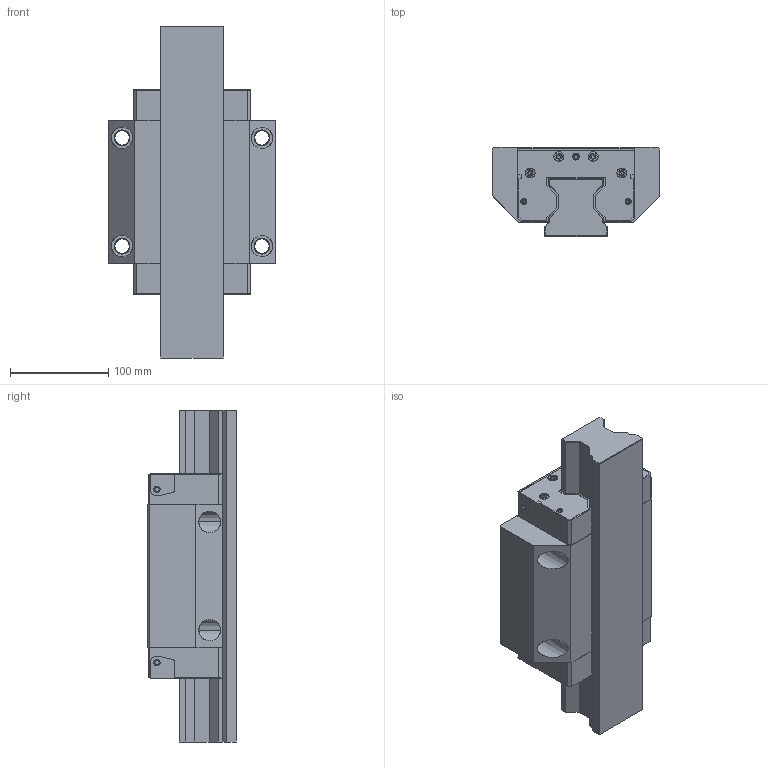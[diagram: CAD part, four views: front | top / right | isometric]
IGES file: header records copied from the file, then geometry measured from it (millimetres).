
Start section: 3D InterOp IGES (v. 2019 1.0.2), Spatial Corp. Copyright (c) 1999-2017.
Global section: file name: R1851_size65.igs; native system: Spatial Corp.; preprocessor: 3D InterOp GENERIC/IGES 3.0; author: Noname; organization: Noname; date: 20220630.112918; units: millimetre
Bounding box: 170 x 90 x 337.3 mm (x, y, z)
Surface area: 311534.2 mm2 (no closed solid volume)
Topology: 0 solids, 0 shells, 596 faces, 3132 edges, 3096 vertices
Faces by surface type: extrusion 344, revolution 252
